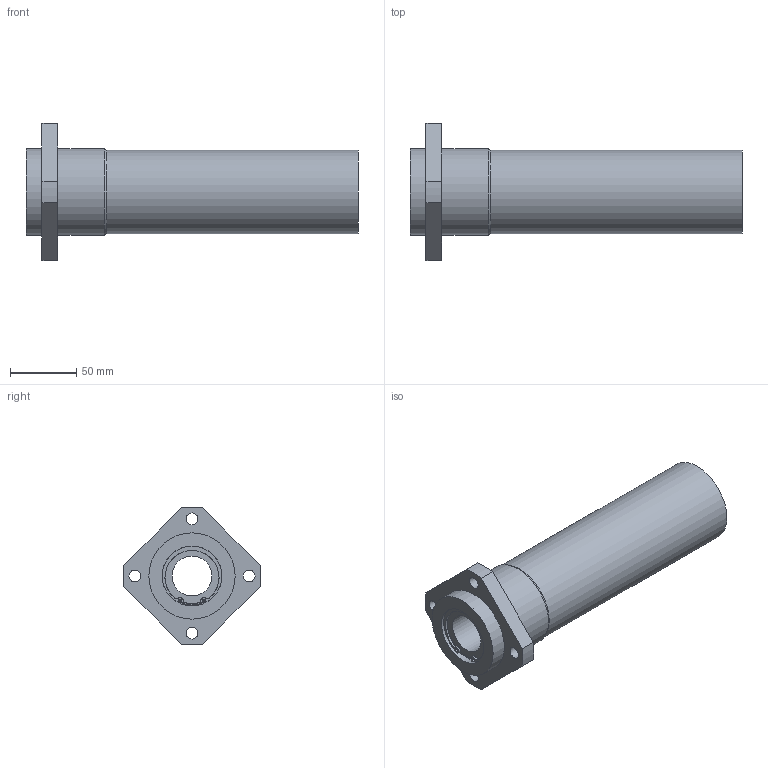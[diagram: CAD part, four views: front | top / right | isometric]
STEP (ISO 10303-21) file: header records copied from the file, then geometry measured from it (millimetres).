
FILE_DESCRIPTION((''),'2;1');
FILE_NAME('C:\Documents and Settings\土屋\My Documents\土屋移動用フォルダ\製品 (図面)\カタログ用3D\変換ファイル\OZAK_3D-CAD(STEP形式)\Part1.-Linear Bearings_ﾘﾆｱﾍﾞｱﾘﾝｸﾞ\09_Maintenance Free_ﾒｲﾝﾃﾅﾝｽﾌﾘｰ\L2017-09-22T14:04:37','2017-09-22T14:04:37',('y'),(''),'Autodesk Inventor 11','Autodesk Inventor 11','');
FILE_SCHEMA(('AUTOMOTIVE_DESIGN { 1 0 10303 214 1 1 1 1 }'));
Length unit declared in the file: millimetre
Products named in the file (1): LFWLB30AMF
Bounding box: 250 x 103.86 x 103.86 mm (x, y, z)
Volume: 645776.8 mm3; surface area: 96237.3 mm2
Topology: 1 solids, 7 shells, 97 faces, 245 edges, 152 vertices
Faces by surface type: bspline 34, cylinder 32, plane 28, torus 2, cone 1
Full cylindrical faces by diameter (mm): 2.5 x2, 9 x4, 30 x2, 41.7 x2, 43 x2, 45 x8, 63 x1, 65 x2
Entity records: 2957 total; most frequent: CARTESIAN_POINT 778, DIRECTION 468, ORIENTED_EDGE 384, AXIS2_PLACEMENT_3D 212, EDGE_CURVE 192, EDGE_LOOP 166, CIRCLE 148, VERTEX_POINT 136
